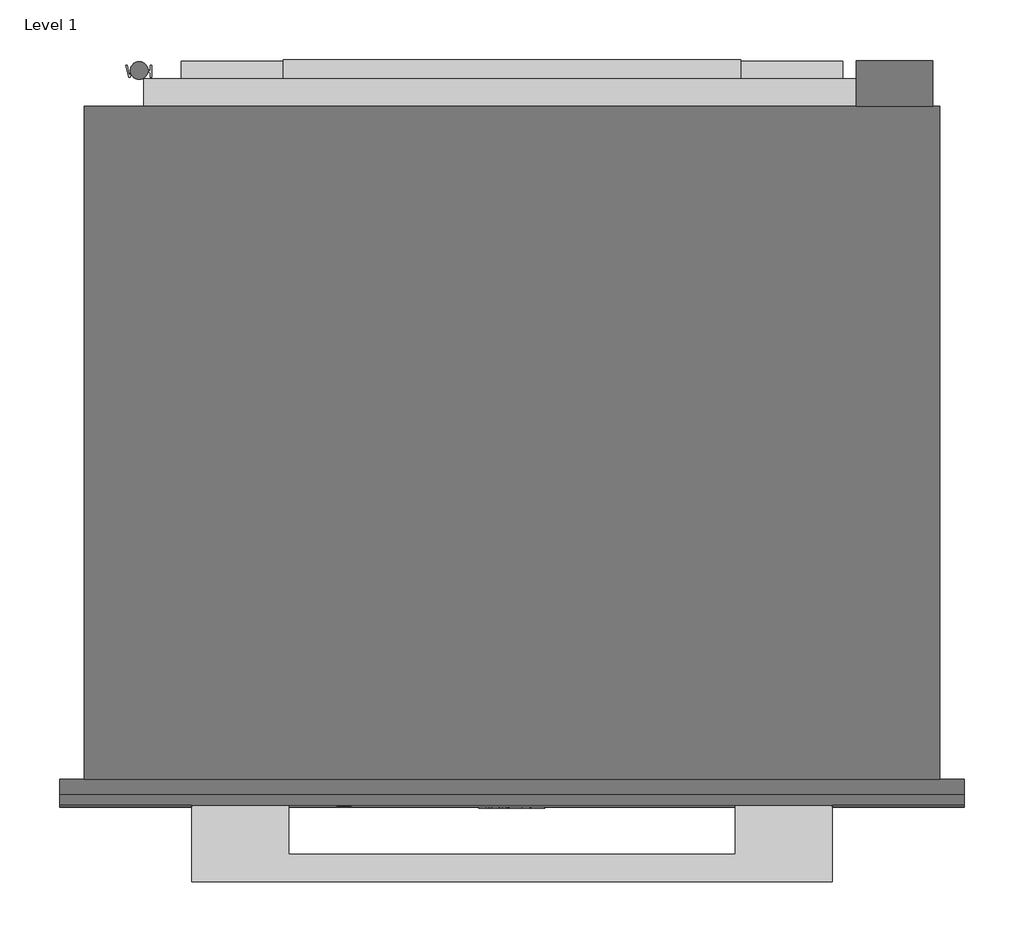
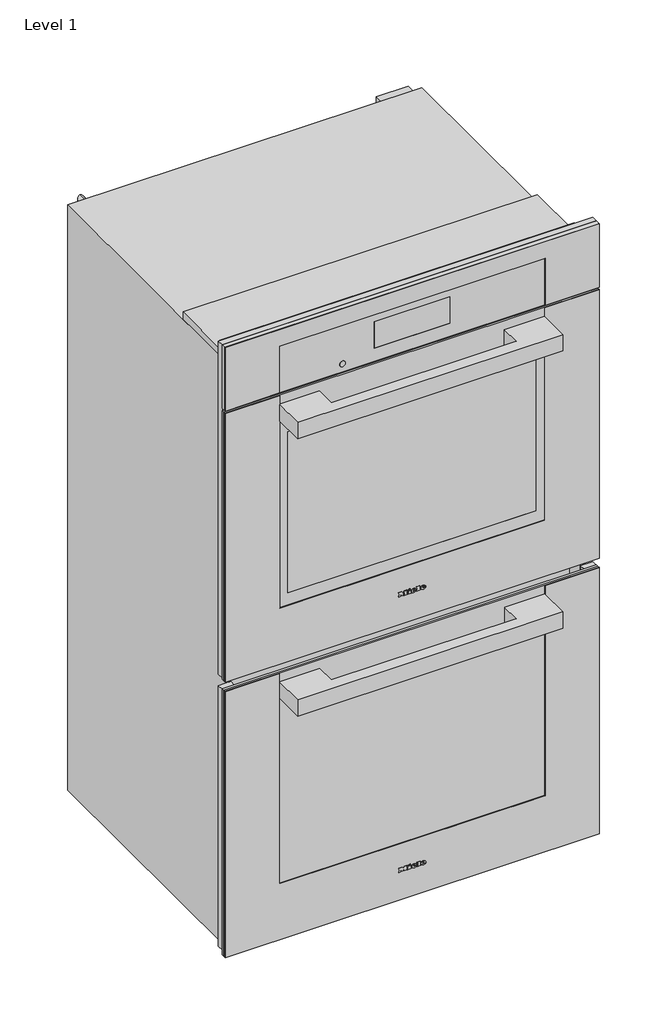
# One storey: 1 proxy.
"""IFC4 building model written with IfcOpenShell, lengths in millimetres."""

from ifc_helpers import new_model, si_unit, origin, place, context, project, spatial, transform, mapped, element, save
from components import specialty_equipment_2fecc1ba

model = new_model("IFC4")

# Units and contexts
model_context = context("Model", 3, world=origin())
ifc_project = project(units=[si_unit("LENGTHUNIT", "METRE", prefix="MILLI")], contexts=[model_context])

# Site, building, storey
site = spatial("IfcSite", under=ifc_project)
building = spatial("IfcBuilding", under=site)
storey = spatial("IfcBuildingStorey", under=building, Name="Level 1", Elevation=0.0)

# Proxy
placement = place(None, origin())
specialty_equipment_shape = specialty_equipment_2fecc1ba(model_context)
element("IfcBuildingElementProxy", 1, Name="11805570_USA_H7780BP2_EDST-CLST : 22778047_USA_11805570_H7780BP2_EDST-CLST", ObjectType="11805570_USA_H7780BP2_EDST-CLST : 22778047_USA_11805570_H7780BP2_EDST-CLST", at=placement, inside=storey, context=model_context, shape_type="MappedRepresentation", body=[
    mapped(specialty_equipment_shape, transform((0.0, 0.0, 0.0), x_axis=(1.0, 0.0, 0.0), y_axis=(0.0, 1.0, 0.0), z_axis=(0.0, 0.0, 1.0))),
])

save(model, "model.ifc")
